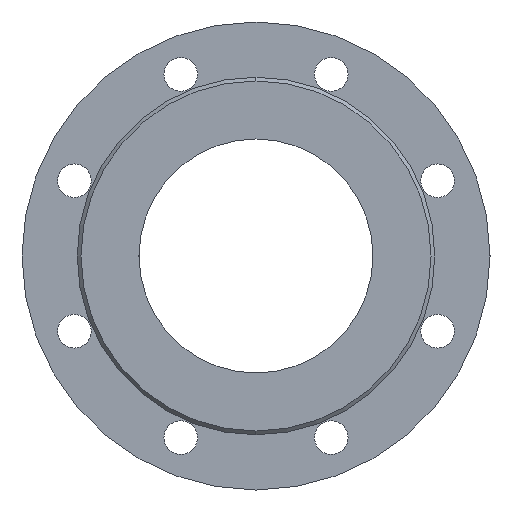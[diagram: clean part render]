
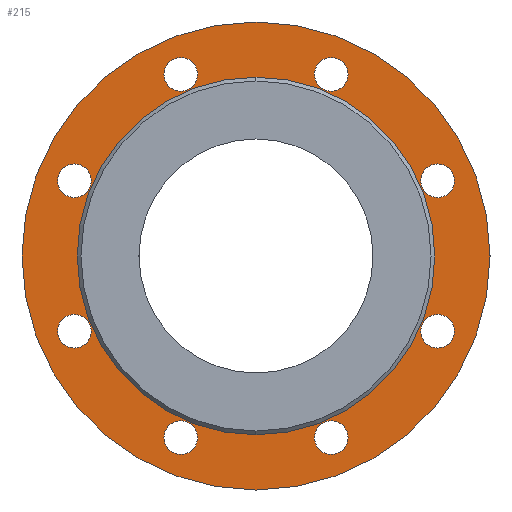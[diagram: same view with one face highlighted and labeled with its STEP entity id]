
A CAD part, left-side view. The second image highlights one B-rep face of the part: STEP entity #215.
In plain terms, the highlighted planar face has unit normal (-1, 0, 0).
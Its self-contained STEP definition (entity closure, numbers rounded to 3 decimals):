
#215=ADVANCED_FACE('',(#431,#432,#433,#434,#435,#436,#437,#438,#439,#440),#441,.F.);
#431=FACE_BOUND('',#691,.T.);
#432=FACE_BOUND('',#692,.T.);
#433=FACE_BOUND('',#693,.T.);
#434=FACE_BOUND('',#694,.T.);
#435=FACE_BOUND('',#695,.T.);
#436=FACE_BOUND('',#696,.T.);
#437=FACE_BOUND('',#697,.T.);
#438=FACE_BOUND('',#698,.T.);
#439=FACE_BOUND('',#699,.T.);
#440=FACE_OUTER_BOUND('',#700,.T.);
#441=PLANE('',#701);
#691=EDGE_LOOP('',(#1127,#1128));
#692=EDGE_LOOP('',(#1129,#1130));
#693=EDGE_LOOP('',(#1131,#1132));
#694=EDGE_LOOP('',(#1133,#1134));
#695=EDGE_LOOP('',(#1135,#1136));
#696=EDGE_LOOP('',(#1137,#1138));
#697=EDGE_LOOP('',(#1139,#1140));
#698=EDGE_LOOP('',(#1141,#1142));
#699=EDGE_LOOP('',(#1143,#1144));
#700=EDGE_LOOP('',(#1145,#1146));
#701=AXIS2_PLACEMENT_3D('',#1147,#1148,#1149);
#1127=ORIENTED_EDGE('',*,*,#1405,.T.);
#1128=ORIENTED_EDGE('',*,*,#1452,.T.);
#1129=ORIENTED_EDGE('',*,*,#1496,.T.);
#1130=ORIENTED_EDGE('',*,*,#1500,.T.);
#1131=ORIENTED_EDGE('',*,*,#1361,.T.);
#1132=ORIENTED_EDGE('',*,*,#1515,.T.);
#1133=ORIENTED_EDGE('',*,*,#1519,.T.);
#1134=ORIENTED_EDGE('',*,*,#1364,.T.);
#1135=ORIENTED_EDGE('',*,*,#1461,.T.);
#1136=ORIENTED_EDGE('',*,*,#1521,.T.);
#1137=ORIENTED_EDGE('',*,*,#1522,.T.);
#1138=ORIENTED_EDGE('',*,*,#1399,.T.);
#1139=ORIENTED_EDGE('',*,*,#1371,.T.);
#1140=ORIENTED_EDGE('',*,*,#1523,.T.);
#1141=ORIENTED_EDGE('',*,*,#1412,.T.);
#1142=ORIENTED_EDGE('',*,*,#1524,.T.);
#1143=ORIENTED_EDGE('',*,*,#1425,.T.);
#1144=ORIENTED_EDGE('',*,*,#1471,.T.);
#1145=ORIENTED_EDGE('',*,*,#1525,.F.);
#1146=ORIENTED_EDGE('',*,*,#1526,.F.);
#1147=CARTESIAN_POINT('',(2.0,0.0,0.));
#1148=DIRECTION('',(1.0,0.0,0.));
#1149=DIRECTION('',(0.,0.0,-1.0));
#1361=EDGE_CURVE('',#1586,#1590,#1592,.T.);
#1364=EDGE_CURVE('',#1597,#1595,#1598,.T.);
#1371=EDGE_CURVE('',#1604,#1608,#1610,.T.);
#1399=EDGE_CURVE('',#1662,#1660,#1663,.T.);
#1405=EDGE_CURVE('',#1672,#1670,#1673,.T.);
#1412=EDGE_CURVE('',#1679,#1683,#1685,.T.);
#1425=EDGE_CURVE('',#1700,#1704,#1706,.T.);
#1452=EDGE_CURVE('',#1670,#1672,#1745,.T.);
#1461=EDGE_CURVE('',#1754,#1758,#1760,.T.);
#1471=EDGE_CURVE('',#1704,#1700,#1774,.T.);
#1496=EDGE_CURVE('',#1805,#1809,#1811,.T.);
#1500=EDGE_CURVE('',#1809,#1805,#1815,.T.);
#1515=EDGE_CURVE('',#1590,#1586,#1832,.T.);
#1519=EDGE_CURVE('',#1595,#1597,#1836,.T.);
#1521=EDGE_CURVE('',#1758,#1754,#1838,.T.);
#1522=EDGE_CURVE('',#1660,#1662,#1839,.T.);
#1523=EDGE_CURVE('',#1608,#1604,#1840,.T.);
#1524=EDGE_CURVE('',#1683,#1679,#1841,.T.);
#1525=EDGE_CURVE('',#1842,#1843,#1844,.T.);
#1526=EDGE_CURVE('',#1843,#1842,#1845,.T.);
#1586=VERTEX_POINT('',#1913);
#1590=VERTEX_POINT('',#1918);
#1592=CIRCLE('',#1921,9.0);
#1595=VERTEX_POINT('',#1924);
#1597=VERTEX_POINT('',#1927);
#1598=CIRCLE('',#1928,9.0);
#1604=VERTEX_POINT('',#1935);
#1608=VERTEX_POINT('',#1940);
#1610=CIRCLE('',#1943,9.0);
#1660=VERTEX_POINT('',#1995);
#1662=VERTEX_POINT('',#1998);
#1663=CIRCLE('',#1999,9.0);
#1670=VERTEX_POINT('',#2007);
#1672=VERTEX_POINT('',#2010);
#1673=CIRCLE('',#2011,62.5);
#1679=VERTEX_POINT('',#2018);
#1683=VERTEX_POINT('',#2023);
#1685=CIRCLE('',#2026,9.0);
#1700=VERTEX_POINT('',#2045);
#1704=VERTEX_POINT('',#2050);
#1706=CIRCLE('',#2053,9.0);
#1745=CIRCLE('',#2100,62.5);
#1754=VERTEX_POINT('',#2111);
#1758=VERTEX_POINT('',#2116);
#1760=CIRCLE('',#2119,9.0);
#1774=CIRCLE('',#2135,9.0);
#1805=VERTEX_POINT('',#2170);
#1809=VERTEX_POINT('',#2175);
#1811=CIRCLE('',#2178,9.0);
#1815=CIRCLE('',#2182,9.0);
#1832=CIRCLE('',#2201,9.0);
#1836=CIRCLE('',#2205,9.0);
#1838=CIRCLE('',#2207,9.0);
#1839=CIRCLE('',#2208,9.0);
#1840=CIRCLE('',#2209,9.0);
#1841=CIRCLE('',#2210,9.0);
#1842=VERTEX_POINT('',#2211);
#1843=VERTEX_POINT('',#2212);
#1844=CIRCLE('',#2213,125.0);
#1845=CIRCLE('',#2214,125.0);
#1913=CARTESIAN_POINT('',(2.0,40.182,-106.007));
#1918=CARTESIAN_POINT('',(2.0,40.182,-88.007));
#1921=AXIS2_PLACEMENT_3D('',#2297,#2298,#2299);
#1924=CARTESIAN_POINT('',(2.0,-97.007,31.182));
#1927=CARTESIAN_POINT('',(2.0,-97.007,49.182));
#1928=AXIS2_PLACEMENT_3D('',#2301,#2302,#2303);
#1935=CARTESIAN_POINT('',(2.0,40.182,88.007));
#1940=CARTESIAN_POINT('',(2.,40.182,106.007));
#1943=AXIS2_PLACEMENT_3D('',#2313,#2314,#2315);
#1995=CARTESIAN_POINT('',(2.0,97.007,31.182));
#1998=CARTESIAN_POINT('',(2.0,97.007,49.182));
#1999=AXIS2_PLACEMENT_3D('',#2382,#2383,#2384);
#2007=CARTESIAN_POINT('',(2.0,0.,-62.5));
#2010=CARTESIAN_POINT('',(2.0,0.,62.5));
#2011=AXIS2_PLACEMENT_3D('',#2390,#2391,#2392);
#2018=CARTESIAN_POINT('',(2.0,-97.007,-49.182));
#2023=CARTESIAN_POINT('',(2.0,-97.007,-31.182));
#2026=AXIS2_PLACEMENT_3D('',#2402,#2403,#2404);
#2045=CARTESIAN_POINT('',(2.0,-40.182,-106.007));
#2050=CARTESIAN_POINT('',(2.0,-40.182,-88.007));
#2053=AXIS2_PLACEMENT_3D('',#2420,#2421,#2422);
#2100=AXIS2_PLACEMENT_3D('',#2461,#2462,#2463);
#2111=CARTESIAN_POINT('',(2.0,-40.182,88.007));
#2116=CARTESIAN_POINT('',(2.,-40.182,106.007));
#2119=AXIS2_PLACEMENT_3D('',#2474,#2475,#2476);
#2135=AXIS2_PLACEMENT_3D('',#2488,#2489,#2490);
#2170=CARTESIAN_POINT('',(2.0,97.007,-49.182));
#2175=CARTESIAN_POINT('',(2.0,97.007,-31.182));
#2178=AXIS2_PLACEMENT_3D('',#2533,#2534,#2535);
#2182=AXIS2_PLACEMENT_3D('',#2539,#2540,#2541);
#2201=AXIS2_PLACEMENT_3D('',#2559,#2560,#2561);
#2205=AXIS2_PLACEMENT_3D('',#2568,#2569,#2570);
#2207=AXIS2_PLACEMENT_3D('',#2571,#2572,#2573);
#2208=AXIS2_PLACEMENT_3D('',#2574,#2575,#2576);
#2209=AXIS2_PLACEMENT_3D('',#2577,#2578,#2579);
#2210=AXIS2_PLACEMENT_3D('',#2580,#2581,#2582);
#2211=CARTESIAN_POINT('',(2.,0.0,-125.0));
#2212=CARTESIAN_POINT('',(2.,0.,125.0));
#2213=AXIS2_PLACEMENT_3D('',#2583,#2584,#2585);
#2214=AXIS2_PLACEMENT_3D('',#2586,#2587,#2588);
#2297=CARTESIAN_POINT('',(2.,40.182,-97.007));
#2298=DIRECTION('',(1.0,0.0,0.));
#2299=DIRECTION('',(0.,0.0,-1.0));
#2301=CARTESIAN_POINT('',(2.0,-97.007,40.182));
#2302=DIRECTION('',(1.0,0.0,0.));
#2303=DIRECTION('',(0.,0.0,-1.0));
#2313=CARTESIAN_POINT('',(2.,40.182,97.007));
#2314=DIRECTION('',(1.0,0.0,0.));
#2315=DIRECTION('',(0.,0.0,-1.0));
#2382=CARTESIAN_POINT('',(2.0,97.007,40.182));
#2383=DIRECTION('',(1.0,0.0,0.));
#2384=DIRECTION('',(0.,0.0,-1.0));
#2390=CARTESIAN_POINT('',(2.0,0.0,0.));
#2391=DIRECTION('',(1.0,0.0,0.));
#2392=DIRECTION('',(0.,0.0,-1.0));
#2402=CARTESIAN_POINT('',(2.0,-97.007,-40.182));
#2403=DIRECTION('',(1.0,0.0,0.));
#2404=DIRECTION('',(0.,0.0,-1.0));
#2420=CARTESIAN_POINT('',(2.,-40.182,-97.007));
#2421=DIRECTION('',(1.0,0.0,0.));
#2422=DIRECTION('',(0.,0.0,-1.0));
#2461=CARTESIAN_POINT('',(2.0,0.0,0.));
#2462=DIRECTION('',(1.0,0.0,0.));
#2463=DIRECTION('',(0.,0.0,-1.0));
#2474=CARTESIAN_POINT('',(2.,-40.182,97.007));
#2475=DIRECTION('',(1.0,0.0,0.));
#2476=DIRECTION('',(0.,0.0,-1.0));
#2488=CARTESIAN_POINT('',(2.,-40.182,-97.007));
#2489=DIRECTION('',(1.0,0.0,0.));
#2490=DIRECTION('',(0.,0.0,-1.0));
#2533=CARTESIAN_POINT('',(2.0,97.007,-40.182));
#2534=DIRECTION('',(1.0,0.0,0.));
#2535=DIRECTION('',(0.,0.0,-1.0));
#2539=CARTESIAN_POINT('',(2.0,97.007,-40.182));
#2540=DIRECTION('',(1.0,0.0,0.));
#2541=DIRECTION('',(0.,0.0,-1.0));
#2559=CARTESIAN_POINT('',(2.,40.182,-97.007));
#2560=DIRECTION('',(1.0,0.0,0.));
#2561=DIRECTION('',(0.,0.0,-1.0));
#2568=CARTESIAN_POINT('',(2.0,-97.007,40.182));
#2569=DIRECTION('',(1.0,0.0,0.));
#2570=DIRECTION('',(0.,0.0,-1.0));
#2571=CARTESIAN_POINT('',(2.,-40.182,97.007));
#2572=DIRECTION('',(1.0,0.0,0.));
#2573=DIRECTION('',(0.,0.0,-1.0));
#2574=CARTESIAN_POINT('',(2.0,97.007,40.182));
#2575=DIRECTION('',(1.0,0.0,0.));
#2576=DIRECTION('',(0.,0.0,-1.0));
#2577=CARTESIAN_POINT('',(2.,40.182,97.007));
#2578=DIRECTION('',(1.0,0.0,0.));
#2579=DIRECTION('',(0.,0.0,-1.0));
#2580=CARTESIAN_POINT('',(2.0,-97.007,-40.182));
#2581=DIRECTION('',(1.0,0.0,0.));
#2582=DIRECTION('',(0.,0.0,-1.0));
#2583=CARTESIAN_POINT('',(2.0,0.0,0.));
#2584=DIRECTION('',(1.0,0.0,0.));
#2585=DIRECTION('',(0.,0.0,-1.0));
#2586=CARTESIAN_POINT('',(2.0,0.0,0.));
#2587=DIRECTION('',(1.0,0.0,0.));
#2588=DIRECTION('',(0.,0.0,-1.0));
